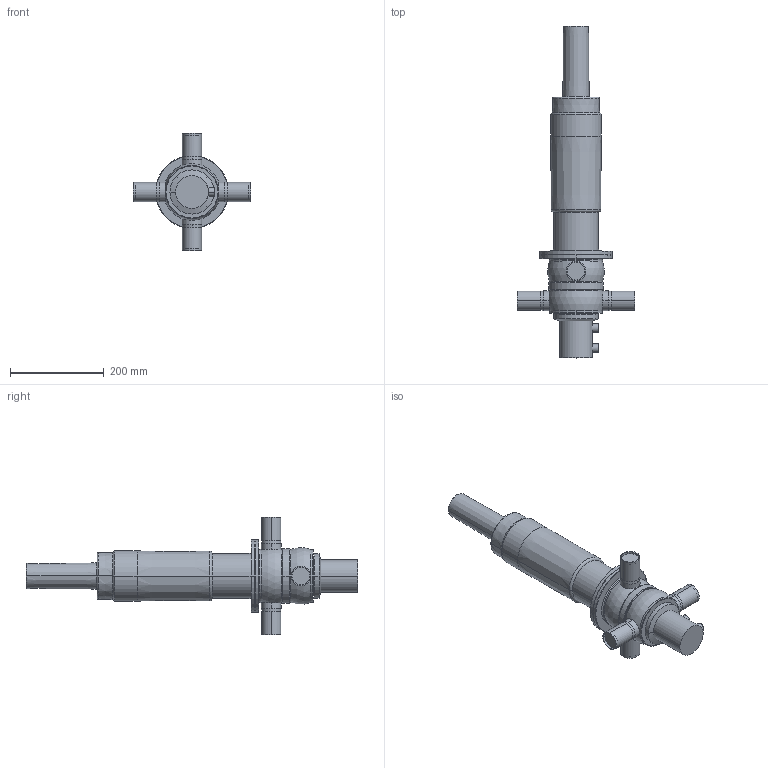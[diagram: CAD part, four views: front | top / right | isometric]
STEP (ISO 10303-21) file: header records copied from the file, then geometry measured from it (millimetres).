
FILE_DESCRIPTION(('Creo Elements/Direct Modeling STEP Export'),'2;1');
FILE_NAME('D44SL-40_prox..stp','2019-09-04T 9:46:49',(''),(''),'PTC Creo Elements/Direct Modeling STEP processor for AP214 (Solid Model)','PTC Creo Elements/Direct Modeling 19.0B 21-Mar-2015 (C) Parametric Technology GmbH','');
FILE_SCHEMA(('AUTOMOTIVE_DESIGN { 1 0 10303 214 1 1 1 1 }'));
Length unit declared in the file: millimetre
Products named in the file (5): D4_Prox._holder.; actuator_D4SL-100_yoke; drain_pipe-62; Housing_D44-40; D44SL-40_prox.
Assembly tree (4 placements, depth 2):
  D44SL-40_prox.
    Housing_D44-40
    drain_pipe-62
    actuator_D4SL-100_yoke
    D4_Prox._holder.
Bounding box: 250 x 707.35 x 250 mm (x, y, z)
Volume: 5489034.7 mm3; surface area: 358557.9 mm2
Topology: 4 solids, 4 shells, 142 faces, 307 edges, 185 vertices
Faces by surface type: cylinder 58, torus 32, plane 26, cone 22, sphere 4
Entity records: 4444 total; most frequent: CARTESIAN_POINT 1477, ORIENTED_EDGE 614, DIRECTION 598, EDGE_CURVE 307, AXIS2_PLACEMENT_3D 259, VERTEX_POINT 185, EDGE_LOOP 154, FACE_OUTER_BOUND 142
